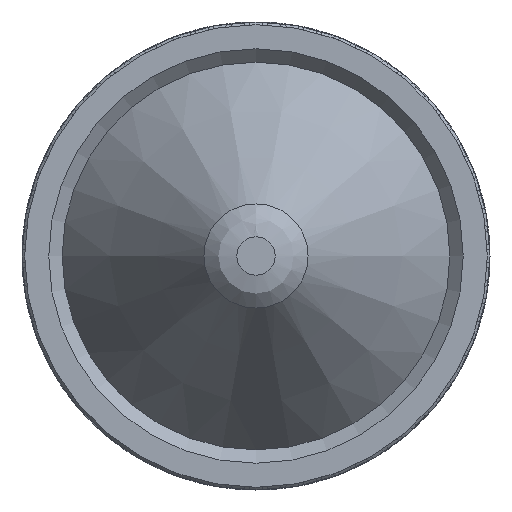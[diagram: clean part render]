
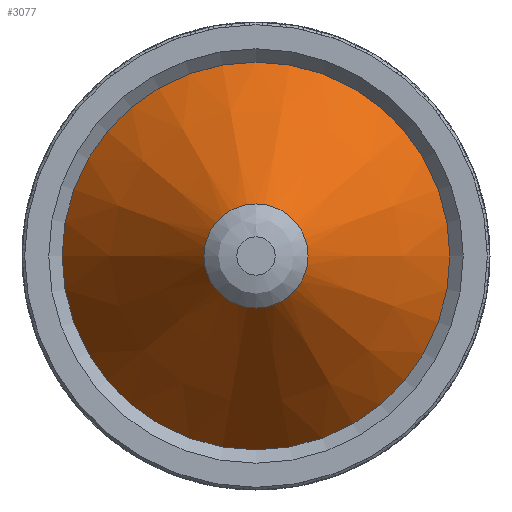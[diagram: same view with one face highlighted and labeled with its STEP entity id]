
A CAD part, front view. The second image highlights one B-rep face of the part: STEP entity #3077.
In plain terms, the highlighted conical face has half-angle 34.875 degrees and reference radius 8.75 mm.
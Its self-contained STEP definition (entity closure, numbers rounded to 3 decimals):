
#113=LINE('',#5054,#281);
#281=VECTOR('',#3833,8.75);
#449=CONICAL_SURFACE('',#3309,8.75,0.609);
#541=FACE_OUTER_BOUND('',#716,.T.);
#716=EDGE_LOOP('',(#2072,#2073,#2074,#2075,#2076));
#893=CIRCLE('',#3306,3.895);
#894=CIRCLE('',#3307,3.895);
#895=CIRCLE('',#3310,14.5);
#1228=VERTEX_POINT('',#5046);
#1229=VERTEX_POINT('',#5048);
#1230=VERTEX_POINT('',#5053);
#1564=EDGE_CURVE('',#1228,#1229,#893,.T.);
#1565=EDGE_CURVE('',#1229,#1228,#894,.T.);
#1566=EDGE_CURVE('',#1229,#1230,#113,.T.);
#1567=EDGE_CURVE('',#1230,#1230,#895,.T.);
#2072=ORIENTED_EDGE('',*,*,#1565,.F.);
#2073=ORIENTED_EDGE('',*,*,#1566,.T.);
#2074=ORIENTED_EDGE('',*,*,#1567,.T.);
#2075=ORIENTED_EDGE('',*,*,#1566,.F.);
#2076=ORIENTED_EDGE('',*,*,#1564,.F.);
#3077=ADVANCED_FACE('',(#541),#449,.T.);
#3306=AXIS2_PLACEMENT_3D('',#5049,#3825,#3826);
#3307=AXIS2_PLACEMENT_3D('',#5050,#3827,#3828);
#3309=AXIS2_PLACEMENT_3D('',#5052,#3831,#3832);
#3310=AXIS2_PLACEMENT_3D('',#5055,#3834,#3835);
#3825=DIRECTION('center_axis',(0.,-1.,0.));
#3826=DIRECTION('ref_axis',(-1.,0.,0.));
#3827=DIRECTION('center_axis',(0.,-1.,0.));
#3828=DIRECTION('ref_axis',(-1.,0.,0.));
#3831=DIRECTION('center_axis',(0.,1.,0.));
#3832=DIRECTION('ref_axis',(1.,0.,0.));
#3833=DIRECTION('',(-0.572,0.82,0.));
#3834=DIRECTION('center_axis',(0.,-1.,0.));
#3835=DIRECTION('ref_axis',(1.,0.,0.));
#5046=CARTESIAN_POINT('',(0.,1.285,3.895));
#5048=CARTESIAN_POINT('',(-3.895,1.285,0.));
#5049=CARTESIAN_POINT('Origin',(0.,1.285,0.));
#5050=CARTESIAN_POINT('Origin',(0.,1.285,0.));
#5052=CARTESIAN_POINT('Origin',(0.,8.25,0.));
#5053=CARTESIAN_POINT('',(-14.5,16.5,0.));
#5054=CARTESIAN_POINT('',(-8.75,8.25,0.));
#5055=CARTESIAN_POINT('Origin',(0.,16.5,0.));
